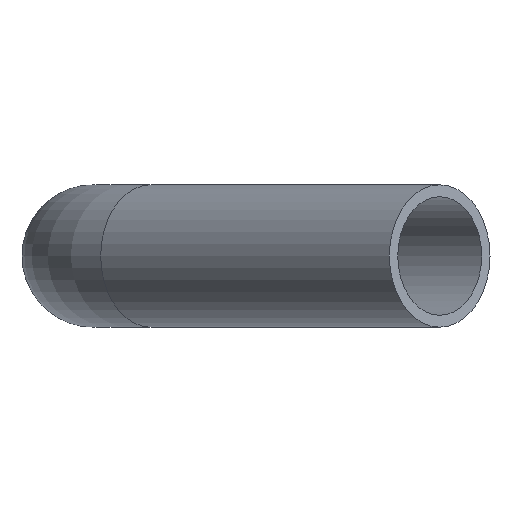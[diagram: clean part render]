
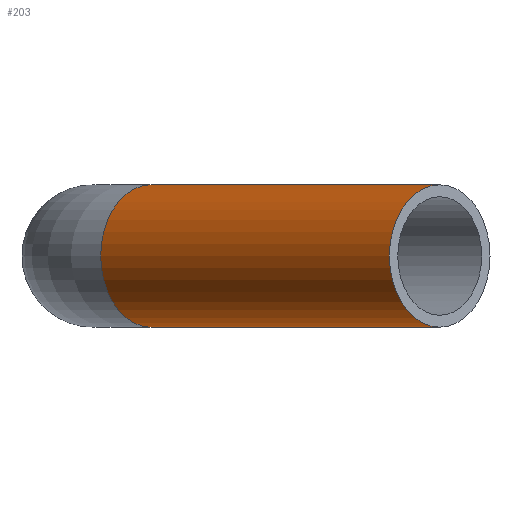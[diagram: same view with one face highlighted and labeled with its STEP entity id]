
A CAD part, left-side view. The second image highlights one B-rep face of the part: STEP entity #203.
In plain terms, the highlighted cylindrical face has radius 9 mm (diameter 18 mm), a full revolution.
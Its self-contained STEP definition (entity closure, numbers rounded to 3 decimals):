
#172=CARTESIAN_POINT('',(-24.042,24.042,0.));
#173=VERTEX_POINT('',#172);
#174=CARTESIAN_POINT('',(-17.678,17.678,0.0));
#175=DIRECTION('',(-0.707,-0.707,0.0));
#176=DIRECTION('',(0.707,-0.707,0.0));
#177=AXIS2_PLACEMENT_3D('',#174,#175,#176);
#178=CIRCLE('',#177,9.0);
#179=EDGE_CURVE('',#173,#173,#178,.T.);
#184=CARTESIAN_POINT('',(-54.196,-18.841,0.0));
#185=DIRECTION('',(0.707,0.707,0.0));
#186=DIRECTION('',(0.707,-0.707,0.0));
#187=AXIS2_PLACEMENT_3D('',#184,#185,#186);
#188=CYLINDRICAL_SURFACE('',#187,9.0);
#189=ORIENTED_EDGE('',*,*,#179,.T.);
#190=EDGE_LOOP('',(#189));
#191=FACE_OUTER_BOUND('',#190,.T.);
#192=CARTESIAN_POINT('',(-60.56,-12.477,0.));
#193=VERTEX_POINT('',#192);
#194=CARTESIAN_POINT('',(-54.196,-18.841,0.0));
#195=DIRECTION('',(-0.707,-0.707,0.0));
#196=DIRECTION('',(0.707,-0.707,0.0));
#197=AXIS2_PLACEMENT_3D('',#194,#195,#196);
#198=CIRCLE('',#197,9.0);
#199=EDGE_CURVE('',#193,#193,#198,.T.);
#200=ORIENTED_EDGE('',*,*,#199,.F.);
#201=EDGE_LOOP('',(#200));
#202=FACE_BOUND('',#201,.T.);
#203=ADVANCED_FACE('',(#191,#202),#188,.T.);
